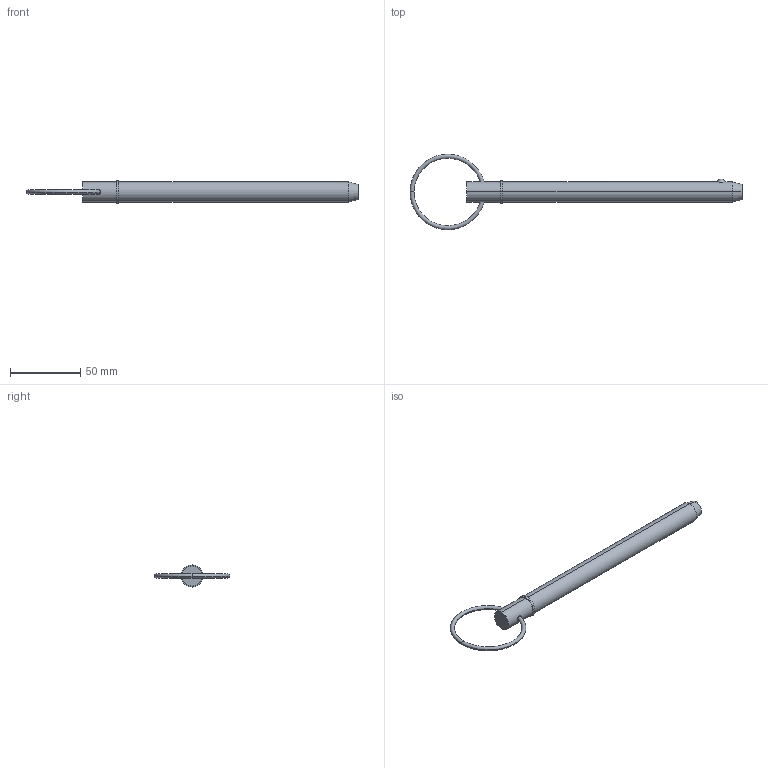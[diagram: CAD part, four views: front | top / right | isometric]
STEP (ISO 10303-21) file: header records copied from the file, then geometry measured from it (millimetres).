
FILE_DESCRIPTION (( 'STEP AP203' ), '1' );
FILE_NAME ('33014.W5660.step', '2024-11-04T08:32:54', ( '' ), ( '' ), 'SwSTEP 2.0', 'SolidWorks 2019', '' );
FILE_SCHEMA (( 'CONFIG_CONTROL_DESIGN' ));
Length unit declared in the file: millimetre
Products named in the file (3): 33014.W5660; Part1_33014.W5660; Part2_33014.W5660
Assembly tree (2 placements, depth 2):
  33014.W5660
    Part1_33014.W5660
    Part2_33014.W5660
Bounding box: 235.76 x 53.66 x 15.72 mm (x, y, z)
Volume: 32074.9 mm3; surface area: 10663 mm2
Topology: 2 solids, 2 shells, 22 faces, 43 edges, 26 vertices
Faces by surface type: torus 8, cylinder 6, plane 4, sphere 2, cone 2
Entity records: 1039 total; most frequent: CARTESIAN_POINT 262, DIRECTION 120, ORIENTED_EDGE 86, AXIS2_PLACEMENT_3D 56, EDGE_CURVE 43, CIRCLE 29, EDGE_LOOP 27, PERSON_AND_ORGANIZATION 26
